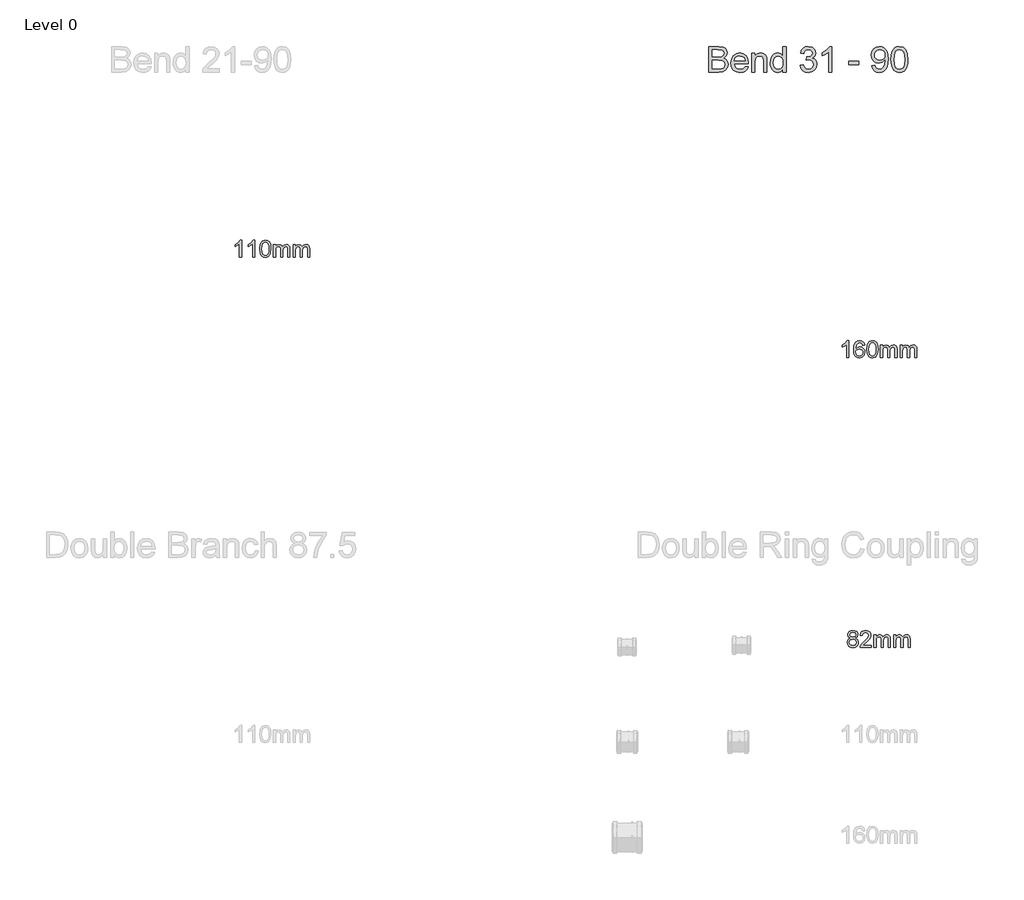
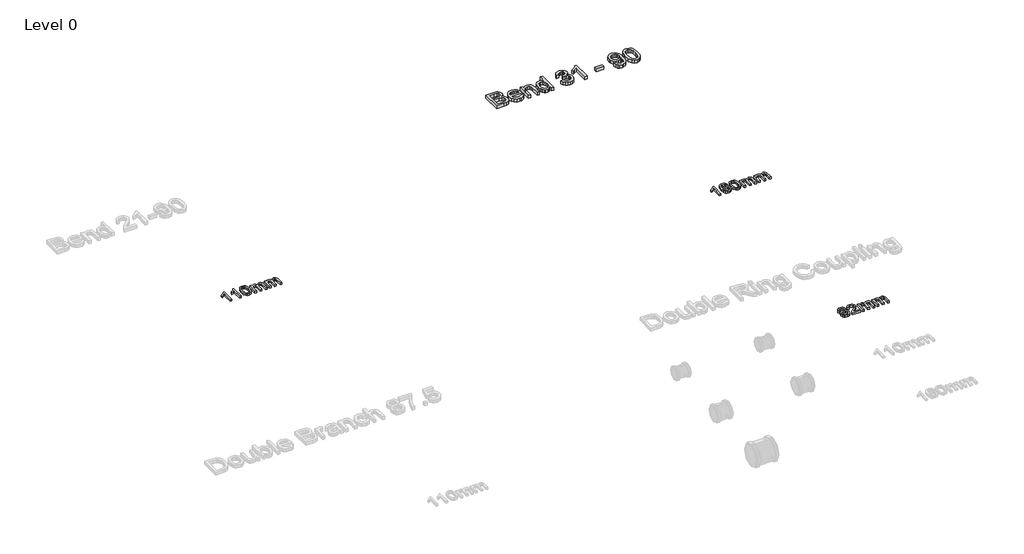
# One storey, part 23 of 23: 4 proxies.
"""IFC4 building model written with IfcOpenShell, lengths in millimetres."""

from ifc_helpers import new_model, si_unit, origin, origin_with_axes, place, context, project, spatial, polyline, outline, extrude, element, save

model = new_model("IFC4")

# Units and contexts
model_context = context("Model", 3, world=origin())
ifc_project = project(units=[si_unit("LENGTHUNIT", "METRE", prefix="MILLI")], contexts=[model_context])

# Site, building, storey
site = spatial("IfcSite", under=ifc_project)
building = spatial("IfcBuilding", under=site)
storey = spatial("IfcBuildingStorey", under=building, Name="Level 0", Elevation=0.0)

# Proxies
placement = place(None, origin())
element("IfcBuildingElementProxy", 1, Name="100mm Arial", ObjectType="100mm Arial", at=placement, inside=storey, context=model_context, shape_type="SweptSolid", body=[
    extrude(outline(polyline([(208.2706812, 8237.7167304), (195.9629889, 8237.7167304), (195.9629889, 8314.4474996), (184.3043351, 8306.1422111), (171.3476043, 8299.9282688), (171.3476043, 8311.5628842), (189.3884697, 8323.0773073), (200.3379889, 8336.1782688), (208.2706812, 8336.1782688), (208.2706812, 8237.7167304)])), origin_with_axes(), (0.0, 0.0, 1.0), 15.0),
    extrude(outline(polyline([(283.6552966, 8237.7167304), (271.3476043, 8237.7167304), (271.3476043, 8314.4474996), (259.6889505, 8306.1422111), (246.7322197, 8299.9282688), (246.7322197, 8311.5628842), (264.7730851, 8323.0773073), (275.7226043, 8336.1782688), (283.6552966, 8336.1782688), (283.6552966, 8237.7167304)])), origin_with_axes(), (0.0, 0.0, 1.0), 15.0),
    extrude(outline(polyline([(312.8860659, 8286.1542304), (316.5038543, 8314.4835573), (327.2490466, 8330.8176919), (345.1937582, 8336.1782688), (359.5687582, 8333.0051919), (369.4966428, 8323.8585573), (375.2658736, 8309.2912496), (377.5014505, 8286.1542304), (373.9197197, 8257.9450958), (363.2105851, 8241.5749035), (345.1937582, 8236.1782688), (332.4052966, 8238.5220188), (322.6937582, 8245.5532688), (315.3379889, 8262.2059131), (312.8860659, 8286.1542304)]), holes=[polyline([(325.1937582, 8286.1782688), (326.6360659, 8266.8182929), (330.9629889, 8255.613365), (337.4052966, 8250.2678121), (345.1937582, 8248.4859611), (352.9822197, 8250.2738217), (359.4245274, 8255.6374035), (363.7514505, 8266.848341), (365.1937582, 8286.1782688), (363.7995274, 8305.1025477), (359.6168351, 8316.394615), (353.1865466, 8322.0015861), (345.0495274, 8323.8705765), (337.3452005, 8322.2239419), (331.1552966, 8317.2840381), (326.6841428, 8305.2888458), (325.1937582, 8286.1782688)])]), origin_with_axes(), (0.0, 0.0, 1.0), 15.0),
    extrude(outline(polyline([(391.3476043, 8237.7167304), (391.3476043, 8310.0244227), (403.6552966, 8310.0244227), (403.6552966, 8298.1253842), (412.1168351, 8307.8729804), (424.1601043, 8311.5628842), (436.4918351, 8307.800865), (443.2706812, 8297.2599996), (452.8740466, 8307.9871631), (465.0014505, 8311.5628842), (474.2532534, 8310.0755044), (481.0952005, 8305.613365), (485.3229649, 8298.0562736), (486.7322197, 8287.2840381), (486.7322197, 8237.7167304), (474.4245274, 8237.7167304), (474.4245274, 8281.9955765), (473.2827005, 8292.2720188), (469.1480851, 8297.332115), (462.1168351, 8299.2551919), (450.0134697, 8294.3273073), (445.1937582, 8278.5340381), (445.1937582, 8237.7167304), (432.8860659, 8237.7167304), (432.8860659, 8283.3657688), (430.0375082, 8295.2888458), (420.6985659, 8299.2551919), (411.5879889, 8296.6109611), (405.5302966, 8288.8705765), (403.6552966, 8274.1830765), (403.6552966, 8237.7167304), (391.3476043, 8237.7167304)])), origin_with_axes(), (0.0, 0.0, 1.0), 15.0),
    extrude(outline(polyline([(505.1937582, 8237.7167304), (505.1937582, 8310.0244227), (517.5014505, 8310.0244227), (517.5014505, 8298.1253842), (525.9629889, 8307.8729804), (538.0062582, 8311.5628842), (550.3379889, 8307.800865), (557.1168351, 8297.2599996), (566.7202005, 8307.9871631), (578.8476043, 8311.5628842), (588.0994072, 8310.0755044), (594.9413543, 8305.613365), (599.1691187, 8298.0562736), (600.5783736, 8287.2840381), (600.5783736, 8237.7167304), (588.2706812, 8237.7167304), (588.2706812, 8281.9955765), (587.1288543, 8292.2720188), (582.9942389, 8297.332115), (575.9629889, 8299.2551919), (563.8596236, 8294.3273073), (559.039912, 8278.5340381), (559.039912, 8237.7167304), (546.7322197, 8237.7167304), (546.7322197, 8283.3657688), (543.883662, 8295.2888458), (534.5447197, 8299.2551919), (525.4341428, 8296.6109611), (519.3764505, 8288.8705765), (517.5014505, 8274.1830765), (517.5014505, 8237.7167304), (505.1937582, 8237.7167304)])), origin_with_axes(), (0.0, 0.0, 1.0), 15.0),
])
element("IfcBuildingElementProxy", 2, Name="100mm Arial", ObjectType="100mm Arial", at=placement, inside=storey, context=model_context, shape_type="SweptSolid", body=[
    extrude(outline(polyline([(3708.2706812, 7657.7167304), (3695.9629889, 7657.7167304), (3695.9629889, 7734.4474996), (3684.3043351, 7726.1422111), (3671.3476043, 7719.9282688), (3671.3476043, 7731.5628842), (3689.3884697, 7743.0773073), (3700.3379889, 7756.1782688), (3708.2706812, 7756.1782688), (3708.2706812, 7657.7167304)])), origin_with_axes(), (0.0, 0.0, 1.0), 15.0),
    extrude(outline(polyline([(3800.5783736, 7730.0244227), (3788.2706812, 7728.4859611), (3783.6072197, 7738.7503842), (3771.2754889, 7743.8705765), (3760.1697197, 7740.8898073), (3751.7682774, 7729.6999035), (3748.2706812, 7707.7648073), (3759.1240466, 7717.5845188), (3772.5735659, 7720.7936535), (3783.9437582, 7718.6001438), (3793.4870274, 7712.019615), (3799.9593832, 7701.9655285), (3802.1168351, 7689.3513458), (3798.0543351, 7672.3681727), (3786.8764505, 7660.3489419), (3770.7466428, 7656.1782688), (3756.7833014, 7658.9426919), (3745.6625082, 7667.2359611), (3738.3878687, 7681.8753842), (3735.9629889, 7703.6782688), (3738.6552966, 7728.19149), (3746.7322197, 7744.9523073), (3757.7598639, 7753.3717785), (3772.0447197, 7756.1782688), (3782.8439986, 7754.44149), (3791.4918351, 7749.2311535), (3797.5495274, 7740.9559131), (3800.5783736, 7730.0244227)]), holes=[polyline([(3748.2706812, 7689.5436535), (3751.1192389, 7678.8825958), (3758.6913543, 7671.1422111), (3769.7851043, 7668.4859611), (3777.9070995, 7669.8621631), (3784.2923159, 7673.9907688), (3788.4299361, 7680.4811535), (3789.8091428, 7688.9426919), (3788.4479649, 7697.0646871), (3784.3644312, 7703.2575958), (3769.2802966, 7708.4859611), (3754.3884697, 7703.2575958), (3749.8001284, 7697.2149275), (3748.2706812, 7689.5436535)])]), origin_with_axes(), (0.0, 0.0, 1.0), 15.0),
    extrude(outline(polyline([(3812.8860659, 7706.1542304), (3816.5038543, 7734.4835573), (3827.2490466, 7750.8176919), (3845.1937582, 7756.1782688), (3859.5687582, 7753.0051919), (3869.4966428, 7743.8585573), (3875.2658736, 7729.2912496), (3877.5014505, 7706.1542304), (3873.9197197, 7677.9450958), (3863.2105851, 7661.5749035), (3845.1937582, 7656.1782688), (3832.4052966, 7658.5220188), (3822.6937582, 7665.5532688), (3815.3379889, 7682.2059131), (3812.8860659, 7706.1542304)]), holes=[polyline([(3825.1937582, 7706.1782688), (3826.6360659, 7686.8182929), (3830.9629889, 7675.613365), (3837.4052966, 7670.2678121), (3845.1937582, 7668.4859611), (3852.9822197, 7670.2738217), (3859.4245274, 7675.6374035), (3863.7514505, 7686.848341), (3865.1937582, 7706.1782688), (3863.7995274, 7725.1025477), (3859.6168351, 7736.394615), (3853.1865466, 7742.0015861), (3845.0495274, 7743.8705765), (3837.3452005, 7742.2239419), (3831.1552966, 7737.2840381), (3826.6841428, 7725.2888458), (3825.1937582, 7706.1782688)])]), origin_with_axes(), (0.0, 0.0, 1.0), 15.0),
    extrude(outline(polyline([(3891.3476043, 7657.7167304), (3891.3476043, 7730.0244227), (3903.6552966, 7730.0244227), (3903.6552966, 7718.1253842), (3912.1168351, 7727.8729804), (3924.1601043, 7731.5628842), (3936.4918351, 7727.800865), (3943.2706812, 7717.2599996), (3952.8740466, 7727.9871631), (3965.0014505, 7731.5628842), (3974.2532534, 7730.0755044), (3981.0952005, 7725.613365), (3985.3229649, 7718.0562736), (3986.7322197, 7707.2840381), (3986.7322197, 7657.7167304), (3974.4245274, 7657.7167304), (3974.4245274, 7701.9955765), (3973.2827005, 7712.2720188), (3969.1480851, 7717.332115), (3962.1168351, 7719.2551919), (3950.0134697, 7714.3273073), (3945.1937582, 7698.5340381), (3945.1937582, 7657.7167304), (3932.8860659, 7657.7167304), (3932.8860659, 7703.3657688), (3930.0375082, 7715.2888458), (3920.6985659, 7719.2551919), (3911.5879889, 7716.6109611), (3905.5302966, 7708.8705765), (3903.6552966, 7694.1830765), (3903.6552966, 7657.7167304), (3891.3476043, 7657.7167304)])), origin_with_axes(), (0.0, 0.0, 1.0), 15.0),
    extrude(outline(polyline([(4005.1937582, 7657.7167304), (4005.1937582, 7730.0244227), (4017.5014505, 7730.0244227), (4017.5014505, 7718.1253842), (4025.9629889, 7727.8729804), (4038.0062582, 7731.5628842), (4050.3379889, 7727.800865), (4057.1168351, 7717.2599996), (4066.7202005, 7727.9871631), (4078.8476043, 7731.5628842), (4088.0994072, 7730.0755044), (4094.9413543, 7725.613365), (4099.1691187, 7718.0562736), (4100.5783736, 7707.2840381), (4100.5783736, 7657.7167304), (4088.2706812, 7657.7167304), (4088.2706812, 7701.9955765), (4087.1288543, 7712.2720188), (4082.9942389, 7717.332115), (4075.9629889, 7719.2551919), (4063.8596236, 7714.3273073), (4059.039912, 7698.5340381), (4059.039912, 7657.7167304), (4046.7322197, 7657.7167304), (4046.7322197, 7703.3657688), (4043.883662, 7715.2888458), (4034.5447197, 7719.2551919), (4025.4341428, 7716.6109611), (4019.3764505, 7708.8705765), (4017.5014505, 7694.1830765), (4017.5014505, 7657.7167304), (4005.1937582, 7657.7167304)])), origin_with_axes(), (0.0, 0.0, 1.0), 15.0),
])
element("IfcBuildingElementProxy", 3, Name="100mm Arial", ObjectType="100mm Arial", at=placement, inside=storey, context=model_context, shape_type="SweptSolid", body=[
    extrude(outline(polyline([(3717.7418351, 6040.881174), (3706.5278928, 6048.5254048), (3702.8860659, 6060.4244433), (3704.8692389, 6070.0458375), (3710.8187582, 6077.9965587), (3720.0675562, 6083.3330971), (3731.9485659, 6085.1119433), (3743.9016909, 6083.2910298), (3753.2706812, 6077.8282894), (3759.3283736, 6069.7513663), (3761.3476043, 6060.0879048), (3757.7538543, 6048.4893471), (3746.852412, 6040.881174), (3759.9413543, 6031.2297317), (3764.4245274, 6015.304251), (3762.2009697, 6003.537424), (3755.5302966, 5993.8138663), (3745.2298159, 5987.287424), (3732.1168351, 5985.1119433), (3719.0038543, 5987.2964385), (3708.7033736, 5993.849924), (3702.0327005, 6003.6666308), (3699.8091428, 6015.6407894), (3704.4726043, 6031.9388663), (3717.7418351, 6040.881174)]), holes=[polyline([(3715.1937582, 6060.0638663), (3719.5567389, 6050.4004048), (3732.2610659, 6046.6504048), (3744.7129889, 6050.3763663), (3749.039912, 6059.5109817), (3744.5687582, 6068.9701163), (3732.1168351, 6072.804251), (3719.6288543, 6069.054251), (3715.1937582, 6060.0638663)]), polyline([(3712.1168351, 6016.0734817), (3714.1721236, 6006.8066548), (3721.4437582, 5999.8715587), (3732.2129889, 5997.4196356), (3746.8764505, 6002.5758856), (3752.1168351, 6015.6888663), (3746.7081812, 6029.054251), (3740.2778928, 6033.0205971), (3731.8043351, 6034.3427125), (3717.321162, 6029.1263663), (3712.1168351, 6016.0734817)])]), origin_with_axes(), (0.0, 0.0, 1.0), 15.0),
    extrude(outline(polyline([(3838.2706812, 5998.9580971), (3838.2706812, 5986.6504048), (3773.6552966, 5986.6504048), (3774.977412, 5995.1359817), (3782.4533736, 6008.2008856), (3797.8620274, 6022.4677125), (3819.1120274, 6042.9725202), (3824.4245274, 6056.9148279), (3819.4125082, 6068.2008856), (3806.3235659, 6072.804251), (3792.6817389, 6068.3090587), (3787.5014505, 6055.881174), (3775.1937582, 6057.4196356), (3778.1775322, 6069.3246837), (3784.6288543, 6078.0205971), (3794.2111861, 6083.3391067), (3806.5879889, 6085.1119433), (3819.0549361, 6083.1407894), (3828.6192389, 6077.2273279), (3834.7039745, 6068.3931933), (3836.7322197, 6057.6600202), (3834.5447197, 6045.9893471), (3827.2730851, 6033.9220394), (3809.6408736, 6017.0590587), (3795.4822197, 6005.2201163), (3789.9293351, 5998.9580971), (3838.2706812, 5998.9580971)])), origin_with_axes(), (0.0, 0.0, 1.0), 15.0),
    extrude(outline(polyline([(3853.6552966, 5986.6504048), (3853.6552966, 6058.9580971), (3865.9629889, 6058.9580971), (3865.9629889, 6047.0590587), (3874.4245274, 6056.8066548), (3886.4677966, 6060.4965587), (3898.7995274, 6056.7345394), (3905.5783736, 6046.193674), (3915.1817389, 6056.9208375), (3927.3091428, 6060.4965587), (3936.5609457, 6059.0091788), (3943.4028928, 6054.5470394), (3947.6306572, 6046.9899481), (3949.039912, 6036.2177125), (3949.039912, 5986.6504048), (3936.7322197, 5986.6504048), (3936.7322197, 6030.929251), (3935.5903928, 6041.2056933), (3931.4557774, 6046.2657894), (3924.4245274, 6048.1888663), (3912.321162, 6043.2609817), (3907.5014505, 6027.4677125), (3907.5014505, 5986.6504048), (3895.1937582, 5986.6504048), (3895.1937582, 6032.2994433), (3892.3452005, 6044.2225202), (3883.0062582, 6048.1888663), (3873.8956812, 6045.5446356), (3867.8379889, 6037.804251), (3865.9629889, 6023.116751), (3865.9629889, 5986.6504048), (3853.6552966, 5986.6504048)])), origin_with_axes(), (0.0, 0.0, 1.0), 15.0),
    extrude(outline(polyline([(3967.5014505, 5986.6504048), (3967.5014505, 6058.9580971), (3979.8091428, 6058.9580971), (3979.8091428, 6047.0590587), (3988.2706812, 6056.8066548), (4000.3139505, 6060.4965587), (4012.6456812, 6056.7345394), (4019.4245274, 6046.193674), (4029.0278928, 6056.9208375), (4041.1552966, 6060.4965587), (4050.4070995, 6059.0091788), (4057.2490466, 6054.5470394), (4061.4768111, 6046.9899481), (4062.8860659, 6036.2177125), (4062.8860659, 5986.6504048), (4050.5783736, 5986.6504048), (4050.5783736, 6030.929251), (4049.4365466, 6041.2056933), (4045.3019312, 6046.2657894), (4038.2706812, 6048.1888663), (4026.1673159, 6043.2609817), (4021.3476043, 6027.4677125), (4021.3476043, 5986.6504048), (4009.039912, 5986.6504048), (4009.039912, 6032.2994433), (4006.1913543, 6044.2225202), (3996.852412, 6048.1888663), (3987.7418351, 6045.5446356), (3981.6841428, 6037.804251), (3979.8091428, 6023.116751), (3979.8091428, 5986.6504048), (3967.5014505, 5986.6504048)])), origin_with_axes(), (0.0, 0.0, 1.0), 15.0),
])
element("IfcBuildingElementProxy", 4, Name="150mm Arial", ObjectType="150mm Arial", at=placement, inside=storey, context=model_context, shape_type="SweptSolid", body=[
    extrude(outline(polyline([(2902.087395, 9305.2145219), (2902.087395, 9452.9068296), (2958.445568, 9452.9068296), (2986.0477315, 9448.5618777), (2995.3235728, 9443.049558), (3002.3458084, 9435.2025027), (3008.2412411, 9416.3082719), (3003.2833084, 9399.0546661), (2988.3013373, 9385.9837527), (2998.7625753, 9380.5210123), (3006.492443, 9372.2097142), (3011.2655801, 9361.5997383), (3012.8566257, 9349.2409642), (3008.5116738, 9329.3912046), (2997.7484527, 9315.2565892), (2981.6847507, 9307.7565892), (2958.0128757, 9305.2145219), (2902.087395, 9305.2145219)]), holes=[polyline([(2920.5489334, 9323.6760604), (2958.4095103, 9323.6760604), (2972.1114334, 9324.3972142), (2983.7039815, 9328.4176469), (2991.38427, 9336.6207719), (2994.3950873, 9349.0606758), (2990.8614334, 9363.4116373), (2979.4131161, 9371.9753392), (2956.6066257, 9374.4452911), (2920.5489334, 9374.4452911), (2920.5489334, 9323.6760604)]), polyline([(2920.5489334, 9392.9068296), (2954.2628757, 9392.9068296), (2973.9503757, 9394.4933681), (2985.7953277, 9401.3263008), (2989.7797027, 9413.3515411), (2986.0657603, 9425.3948104), (2975.4287411, 9432.5162046), (2951.7027796, 9434.4452911), (2920.5489334, 9434.4452911), (2920.5489334, 9392.9068296)])]), origin_with_axes(), (0.0, 0.0, 1.0), 25.0),
    extrude(outline(polyline([(3111.8710488, 9337.5222142), (3129.9720103, 9335.2145219), (3123.4500753, 9321.5756998), (3113.0429238, 9311.3803873), (3098.984931, 9305.025219), (3081.5104719, 9302.9068296), (3059.8488132, 9306.5621782), (3043.181145, 9317.5282238), (3032.5531402, 9335.0928272), (3029.0104719, 9358.5438488), (3032.5891978, 9382.7836325), (3043.3253757, 9400.9116373), (3059.7676834, 9412.2157238), (3080.4647988, 9415.9837527), (3100.5173829, 9412.2247383), (3116.54052, 9400.947695), (3127.0468301, 9382.8557479), (3130.5489334, 9358.6520219), (3130.4407603, 9353.6760604), (3047.4720103, 9353.6760604), (3050.6676233, 9339.8569498), (3058.0910007, 9329.697695), (3068.8046426, 9323.4506998), (3081.8710488, 9321.3683681), (3099.9720103, 9325.2265411), (3111.8710488, 9337.5222142)]), holes=[polyline([(3047.4720103, 9372.1375988), (3112.087395, 9372.1375988), (3109.5903998, 9381.8912046), (3104.695568, 9388.8683681), (3093.9323469, 9395.3587527), (3080.3926834, 9397.5222142), (3067.9482724, 9395.7959522), (3057.6583084, 9390.6171661), (3050.5053637, 9382.5447503), (3047.4720103, 9372.1375988)])]), origin_with_axes(), (0.0, 0.0, 1.0), 25.0),
    extrude(outline(polyline([(3149.0104719, 9305.2145219), (3149.0104719, 9413.6760604), (3167.4720103, 9413.6760604), (3167.4720103, 9398.5318296), (3181.5885969, 9411.6207719), (3200.8614334, 9415.9837527), (3218.2953277, 9412.4681277), (3230.1943661, 9403.2373585), (3235.7292219, 9389.6616373), (3236.7027796, 9371.8130796), (3236.7027796, 9305.2145219), (3218.2412411, 9305.2145219), (3218.2412411, 9369.3250988), (3216.1138373, 9385.6592335), (3208.5958084, 9394.2950508), (3195.9215296, 9397.5222142), (3185.1087291, 9395.7103152), (3175.8914815, 9390.2746181), (3169.5768781, 9379.7728152), (3167.4720103, 9362.7625988), (3167.4720103, 9305.2145219), (3149.0104719, 9305.2145219)])), origin_with_axes(), (0.0, 0.0, 1.0), 25.0),
    extrude(outline(polyline([(3329.0104719, 9305.2145219), (3329.0104719, 9322.6303873), (3316.7959286, 9307.837719), (3299.9119142, 9302.9068296), (3287.976818, 9304.6916854), (3277.0513373, 9310.0462527), (3267.8025392, 9318.596433), (3260.8974911, 9329.9681277), (3256.5976113, 9343.7016012), (3255.164318, 9359.3371181), (3260.44677, 9388.7241373), (3267.0453277, 9400.3797863), (3276.2760969, 9408.9525027), (3287.4404599, 9414.2259402), (3299.8397988, 9415.9837527), (3316.8590296, 9410.9537046), (3329.0104719, 9397.8827911), (3329.0104719, 9452.9068296), (3347.4720103, 9452.9068296), (3347.4720103, 9305.2145219), (3329.0104719, 9305.2145219)]), holes=[polyline([(3273.6258565, 9359.4092335), (3275.7081882, 9342.7100147), (3281.9551834, 9330.8335123), (3291.0327075, 9323.7346541), (3301.6066257, 9321.3683681), (3312.1760368, 9323.6264811), (3321.023693, 9330.40082), (3327.0137772, 9341.8175868), (3329.0104719, 9358.0029835), (3326.9777195, 9375.698296), (3320.8794623, 9387.9669258), (3311.8064454, 9395.1333921), (3300.8494142, 9397.5222142), (3290.1673228, 9395.2280436), (3281.414318, 9388.3455315), (3275.5729719, 9376.5231157), (3273.6258565, 9359.4092335)])]), origin_with_axes(), (0.0, 0.0, 1.0), 25.0),
    extrude(outline(polyline([(3428.2412411, 9344.4452911), (3446.7027796, 9346.7529835), (3450.8358926, 9335.151421), (3456.8890777, 9327.3178873), (3465.1598108, 9322.8557479), (3475.945568, 9321.3683681), (3488.601818, 9323.4146421), (3498.3734527, 9329.5534642), (3504.6204478, 9338.7121181), (3506.7027796, 9349.8178873), (3504.6384767, 9360.3602551), (3498.445568, 9368.9104354), (3489.070568, 9374.5760003), (3477.4599911, 9376.4645219), (3464.5152796, 9374.4452911), (3466.570568, 9392.9068296), (3469.5272988, 9392.6904835), (3490.476818, 9397.9909642), (3497.4539815, 9404.7157238), (3499.7797027, 9414.2890411), (3498.0940055, 9422.2622984), (3493.0369142, 9428.7301469), (3485.320568, 9433.0165051), (3475.6571065, 9434.4452911), (3465.9756161, 9433.0029835), (3458.0609527, 9428.6760604), (3452.2827075, 9421.4645219), (3449.0104719, 9411.3683681), (3430.5489334, 9413.6760604), (3435.9846305, 9430.2535844), (3445.6571065, 9442.6303873), (3458.8902796, 9450.337719), (3475.008068, 9452.9068296), (3497.273693, 9447.8407238), (3512.8506161, 9433.99457), (3518.2412411, 9415.3707719), (3513.1210488, 9398.3515411), (3497.976818, 9386.1279835), (3509.5333084, 9381.4585123), (3518.0970103, 9373.5077911), (3523.3974911, 9362.7085123), (3525.164318, 9349.4933681), (3521.6306642, 9331.5005796), (3511.0297027, 9316.4645219), (3495.0291017, 9306.2962527), (3475.2965296, 9302.9068296), (3457.4479719, 9305.8004594), (3442.9167219, 9314.4813488), (3432.8115536, 9327.759594), (3428.2412411, 9344.4452911)])), origin_with_axes(), (0.0, 0.0, 1.0), 25.0),
    extrude(outline(polyline([(3610.5489334, 9305.2145219), (3592.087395, 9305.2145219), (3592.087395, 9420.3106758), (3574.5994142, 9407.8527431), (3555.164318, 9398.5318296), (3555.164318, 9415.9837527), (3582.2256161, 9433.2553873), (3598.649895, 9452.9068296), (3610.5489334, 9452.9068296), (3610.5489334, 9305.2145219)])), origin_with_axes(), (0.0, 0.0, 1.0), 25.0),
    extrude(outline(polyline([(3707.4720103, 9349.0606758), (3707.4720103, 9367.5222142), (3765.164318, 9367.5222142), (3765.164318, 9349.0606758), (3707.4720103, 9349.0606758)])), origin_with_axes(), (0.0, 0.0, 1.0), 25.0),
    extrude(outline(polyline([(3841.3181642, 9342.1375988), (3859.7797027, 9344.4452911), (3862.9347507, 9333.9660243), (3868.0729719, 9326.8311085), (3883.7941257, 9321.3683681), (3898.7400392, 9324.8839931), (3908.8722507, 9334.2770219), (3914.9119142, 9350.322695), (3917.5801834, 9371.7409642), (3917.4720103, 9375.3467335), (3902.7063853, 9361.3563488), (3882.4599911, 9355.9837527), (3865.625556, 9359.2650027), (3851.6126353, 9369.1087527), (3842.1610128, 9384.3160844), (3839.0104719, 9403.6880796), (3842.3142579, 9423.7000988), (3852.2256161, 9439.385195), (3867.1129358, 9449.526421), (3885.3446065, 9452.9068296), (3899.1141378, 9450.9777431), (3911.648693, 9445.1904835), (3922.1324671, 9435.8335123), (3929.7496546, 9423.1952911), (3934.3875753, 9405.7253392), (3935.9335488, 9381.8731758), (3934.3920825, 9356.5832118), (3929.7676834, 9337.0354354), (3922.1009166, 9322.346433), (3911.4323469, 9311.6327911), (3898.2217099, 9305.08832), (3882.9287411, 9302.9068296), (3867.1444863, 9305.4804474), (3854.5513373, 9313.2013008), (3845.7442459, 9325.5826109), (3841.3181642, 9342.1375988)]), holes=[polyline([(3917.4720103, 9404.1207719), (3915.4798228, 9416.6327911), (3909.5032603, 9426.260195), (3900.227419, 9432.3990171), (3888.337395, 9434.4452911), (3876.0056642, 9432.2412647), (3866.1258565, 9425.6291854), (3859.6354719, 9415.5104955), (3857.4720103, 9402.7866373), (3859.5182844, 9391.3788849), (3865.6571065, 9382.3238969), (3875.2935248, 9376.4149426), (3887.8325873, 9374.4452911), (3899.6279599, 9376.4149426), (3909.1246546, 9382.3238969), (3915.3851714, 9391.7124186), (3917.4720103, 9404.1207719)])]), origin_with_axes(), (0.0, 0.0, 1.0), 25.0),
    extrude(outline(polyline([(3952.087395, 9377.8707719), (3953.4440656, 9401.5110964), (3957.5140777, 9420.3647623), (3964.2568661, 9434.7202311), (3973.6318661, 9444.8659642), (3985.7066858, 9450.8966133), (4000.5489334, 9452.9068296), (4022.1114334, 9448.1472142), (4037.0032603, 9434.4272623), (4045.6571065, 9412.5763008), (4049.0104719, 9377.8707719), (4047.6673228, 9354.3656637), (4043.6378757, 9335.55707), (4036.9356522, 9321.1880796), (4027.5741738, 9311.0017815), (4015.4723108, 9304.9305676), (4000.5489334, 9302.9068296), (3981.3662411, 9306.4224546), (3966.7989334, 9316.9693296), (3955.7652796, 9341.948296), (3952.087395, 9377.8707719)]), holes=[polyline([(3970.5489334, 9377.9068296), (3972.712395, 9348.8668657), (3979.2027796, 9332.0594738), (3988.8662411, 9324.0411445), (4000.5489334, 9321.3683681), (4012.2316257, 9324.0501589), (4021.8950873, 9332.0955315), (4028.3854719, 9348.9119378), (4030.5489334, 9377.9068296), (4028.4575873, 9406.2932479), (4022.1835488, 9423.2313488), (4012.5381161, 9431.6418056), (4000.3325873, 9434.4452911), (3988.7760969, 9431.9753392), (3979.4912411, 9424.5654835), (3972.7845103, 9406.572695), (3970.5489334, 9377.9068296)])]), origin_with_axes(), (0.0, 0.0, 1.0), 25.0),
])

save(model, "model.ifc")
